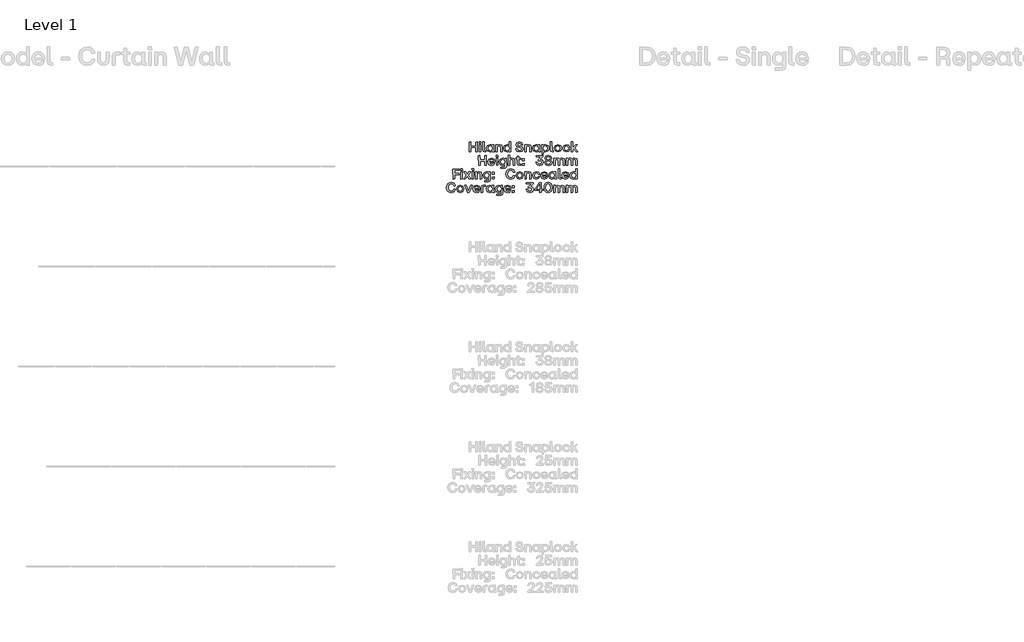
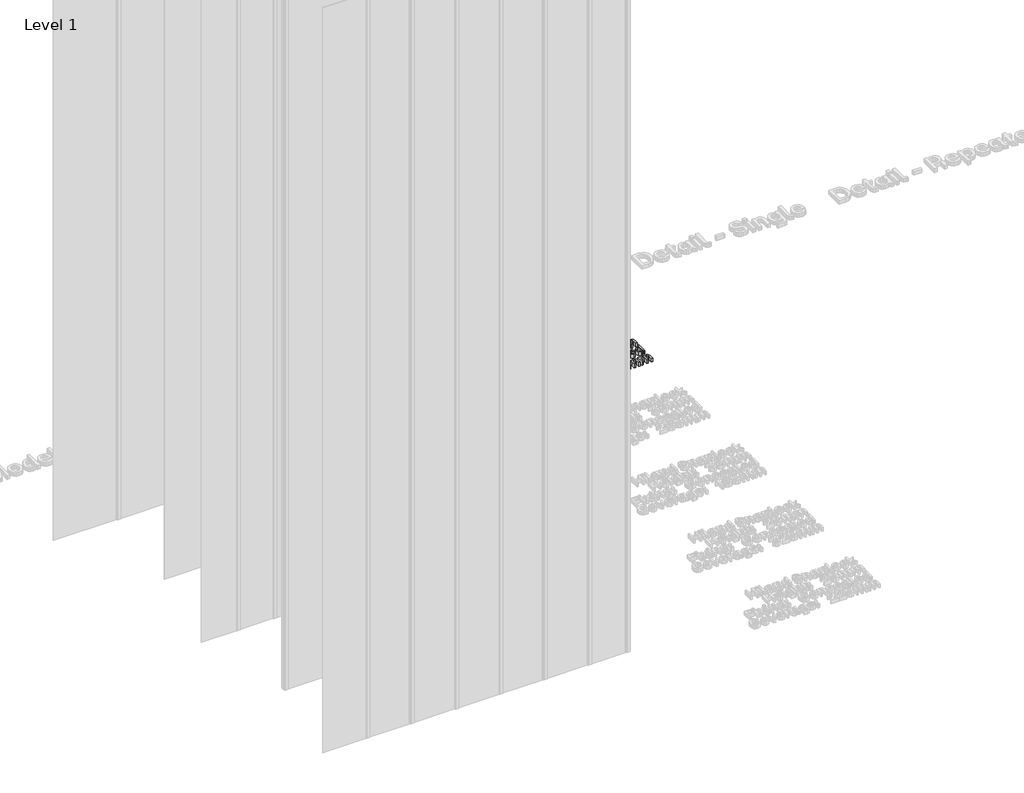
# One storey, part 20 of 64: 1 proxy.
"""IFC4 building model written with IfcOpenShell, lengths in millimetres."""

import ifcopenshell
import ifcopenshell.guid

model = None  # the IFC model being written
_history = None  # IfcOwnerHistory: only IFC2X3 demands one
_inside = {}  # id of a spatial element -> (the spatial element, [elements in it])
_under = {}  # id of a project, library or spatial element -> (it, [spatial elements below it])
_declared = {}  # id of a project -> (the project, [libraries it declares])
_typed = {}  # id of a type object -> (the type object, [elements of that type])
_made_of = {}  # id of a material, layer set ... -> (it, [elements and type objects made of it])


def new_model(schema):
    """Start an empty IFC model of exactly this schema.

    Asked for "IFC4X3", IfcOpenShell would pick the latest addendum, in which some entities
    have other attributes; the version numbers below select the first issue.
    IFC2X3 requires an IfcOwnerHistory on every rooted entity: one is made here for all.
    """
    global model, _history
    if schema == "IFC4X3":
        model = ifcopenshell.file(schema_version=(4, 3, 0, 0))
    else:
        model = ifcopenshell.file(schema=schema)
    _inside.clear()
    _under.clear()
    _declared.clear()
    _typed.clear()
    _made_of.clear()
    _history = None
    if model.schema == "IFC2X3":
        org = make("IfcOrganization", Name="unknown")
        user = make(
            "IfcPersonAndOrganization",
            ThePerson=make("IfcPerson", FamilyName="unknown"),
            TheOrganization=org,
        )
        app = make(
            "IfcApplication",
            ApplicationDeveloper=org,
            Version="unknown",
            ApplicationFullName="unknown",
            ApplicationIdentifier="unknown",
        )
        _history = make(
            "IfcOwnerHistory",
            OwningUser=user,
            OwningApplication=app,
            ChangeAction="ADDED",
            CreationDate=0,
        )
    return model


def make(cls, **values):
    """One entity of the class cls with the attributes given. An attribute that is None is left unset."""
    return model.create_entity(
        cls, **{name: value for name, value in values.items() if value is not None}
    )


def rooted(cls, **values):
    """An entity with a GlobalId (a new one), such as an element, a storey or a relation."""
    return make(cls, GlobalId=ifcopenshell.guid.new(), OwnerHistory=_history, **values)


def si_unit(unit_type, name, prefix=None):
    """IfcSIUnit, for example si_unit("LENGTHUNIT", "METRE", prefix="MILLI")."""
    return make("IfcSIUnit", UnitType=unit_type, Prefix=prefix, Name=name)


def assignment(units):
    """IfcUnitAssignment: the units of a project."""
    return None if units is None else make("IfcUnitAssignment", Units=units)


def point(xyz):
    """IfcCartesianPoint."""
    return None if xyz is None else make("IfcCartesianPoint", Coordinates=xyz)


def direction(xyz):
    """IfcDirection."""
    return None if xyz is None else make("IfcDirection", DirectionRatios=xyz)


def frame(location, z_axis=None, x_axis=None):
    """IfcAxis2Placement3D, a coordinate frame: its origin and axes. An axis left out is left unset."""
    return make(
        "IfcAxis2Placement3D",
        Location=point(location),
        Axis=direction(z_axis),
        RefDirection=direction(x_axis),
    )


def origin():
    """The frame at (0, 0, 0) with its axes left unset."""
    return frame((0.0, 0.0, 0.0))


def origin_with_axes():
    """The frame at (0, 0, 0) with the z axis (0, 0, 1) and the x axis (1, 0, 0) written out."""
    return frame((0.0, 0.0, 0.0), z_axis=(0.0, 0.0, 1.0), x_axis=(1.0, 0.0, 0.0))


def place(relative_to, where):
    """IfcLocalPlacement: puts the frame where relative to a parent placement (None: the world)."""
    return make(
        "IfcLocalPlacement", PlacementRelTo=relative_to, RelativePlacement=where
    )


def context(
    kind, dimensions, precision=None, world=None, true_north=None, identifier=None
):
    """IfcGeometricRepresentationContext, for example the 3D "Model" context."""
    return make(
        "IfcGeometricRepresentationContext",
        ContextIdentifier=identifier,
        ContextType=kind,
        CoordinateSpaceDimension=dimensions,
        Precision=precision,
        WorldCoordinateSystem=world,
        TrueNorth=true_north,
    )


def project(units=None, contexts=None):
    """IfcProject with its units and contexts."""
    return rooted(
        "IfcProject",
        Name="project",
        RepresentationContexts=contexts,
        UnitsInContext=assignment(units),
    )


def spatial(cls, under=None, at=None, **own):
    """A site, building, storey or space (cls), placed at a placement, below another one or the project."""
    s = rooted(cls, ObjectPlacement=at, **own)
    if under is not None:
        _under.setdefault(under.id(), (under, []))[1].append(s)
    return s


def polyline(points):
    """IfcPolyline through the points."""
    return make("IfcPolyline", Points=[point(p) for p in points])


def outline(outer, holes=None, kind="AREA"):
    """IfcArbitraryClosedProfileDef: a profile drawn as a closed curve; with holes, ...WithVoids."""
    if holes is None:
        return make("IfcArbitraryClosedProfileDef", ProfileType=kind, OuterCurve=outer)
    return make(
        "IfcArbitraryProfileDefWithVoids",
        ProfileType=kind,
        OuterCurve=outer,
        InnerCurves=holes,
    )


def extrude(swept, where, along, depth):
    """IfcExtrudedAreaSolid: the profile swept, set in the frame where, extruded along a direction by depth."""
    return make(
        "IfcExtrudedAreaSolid",
        SweptArea=swept,
        Position=where,
        ExtrudedDirection=direction(along),
        Depth=depth,
    )


def shape(context_of_items, identifier, shape_type, items):
    """IfcShapeRepresentation: the items that make up one representation, for example the "Body"."""
    return make(
        "IfcShapeRepresentation",
        ContextOfItems=context_of_items,
        RepresentationIdentifier=identifier,
        RepresentationType=shape_type,
        Items=items,
    )


def made_of(thing, what):
    """Note that an element or type object is made of a material, layer set ...; save() writes the relation."""
    if what is not None:
        _made_of.setdefault(what.id(), (what, []))[1].append(thing)
    return thing


def element(
    cls,
    number,
    at=None,
    inside=None,
    cuts=None,
    type_object=None,
    material=None,
    context=None,
    identifier="Body",
    shape_type=None,
    held_by="IfcProductDefinitionShape",
    body=None,
    shapes=None,
    **own,
):
    """One element of the class cls, such as IfcWall. Its Tag is "e" and its number.

    at: its placement. inside: the storey or other place that contains it. cuts: it is an
    opening in that element (IfcRelVoidsElement). A single representation is given by context,
    identifier, shape_type and body (its items); several are given by shapes. held_by: the class
    of the entity that holds the representations. save() writes the other relations.
    """
    e = rooted(cls, Tag="e%d" % number, ObjectPlacement=at, **own)
    if body is not None:
        shapes = [shape(context, identifier, shape_type, body)]
    if shapes is not None:
        e.Representation = make(held_by, Representations=shapes)
    if inside is not None:
        _inside.setdefault(inside.id(), (inside, []))[1].append(e)
    if cuts is not None:
        rooted(
            "IfcRelVoidsElement", RelatingBuildingElement=cuts, RelatedOpeningElement=e
        )
    if type_object is not None:
        _typed.setdefault(type_object.id(), (type_object, []))[1].append(e)
    return made_of(e, material)


def aggregate(whole, parts):
    """IfcRelAggregates: a whole, such as a stair, and the parts it consists of."""
    return rooted("IfcRelAggregates", RelatingObject=whole, RelatedObjects=parts)


def save(model, path):
    """Write the relations noted so far, then the file.

    IfcRelAggregates (storeys below a building ...), IfcRelContainedInSpatialStructure (elements
    in a storey), IfcRelDefinesByType, IfcRelAssociatesMaterial and IfcRelDeclares: one each for
    every whole, place, type object, material and project.
    """
    for whole, parts in _under.values():
        aggregate(whole, parts)
    for where, things in _inside.values():
        rooted(
            "IfcRelContainedInSpatialStructure",
            RelatedElements=things,
            RelatingStructure=where,
        )
    for kind, things in _typed.values():
        rooted("IfcRelDefinesByType", RelatedObjects=things, RelatingType=kind)
    for what, things in _made_of.values():
        rooted("IfcRelAssociatesMaterial", RelatedObjects=things, RelatingMaterial=what)
    for by, libraries in _declared.values():
        rooted("IfcRelDeclares", RelatingContext=by, RelatedDefinitions=libraries)
    model.write(path)


model = new_model("IFC4")

# Units and contexts
model_context = context("Model", 3, world=origin())
ifc_project = project(units=[si_unit("LENGTHUNIT", "METRE", prefix="MILLI")], contexts=[model_context])

# Site, building, storey
site = spatial("IfcSite", under=ifc_project)
building = spatial("IfcBuilding", under=site)
storey = spatial("IfcBuildingStorey", under=building, Name="Level 1", Elevation=0.0)

# Proxy
placement = place(None, origin())
element("IfcBuildingElementProxy", 1, Name="50mm", ObjectType="50mm", at=placement, inside=storey, context=model_context, shape_type="SweptSolid", body=[
    extrude(outline(polyline([(2488.8278866, -6933.5188866), (2488.1305548, -6911.5808277), (2464.2818068, -6911.5808277), (2464.2818068, -6932.8215548), (2456.7785164, -6933.5188866), (2456.0532913, -6884.2454206), (2463.542635, -6883.5201955), (2464.2818068, -6904.6075096), (2488.1305548, -6904.6075096), (2488.1305548, -6884.2454206), (2495.6198985, -6883.5201955), (2496.3172303, -6932.8215548), (2488.8278866, -6933.5188866)])), origin_with_axes(), (0.0, 0.0, 1.0), 20.0),
    extrude(outline(polyline([(2506.414595, -6933.5188866), (2505.6893699, -6897.8154977), (2512.8997809, -6897.1181659), (2513.5971127, -6932.8215548), (2506.414595, -6933.5188866)])), origin_with_axes(), (0.0, 0.0, 1.0), 20.0),
    extrude(outline(polyline([(2505.4801704, -6890.4516737), (2505.1315045, -6882.4044646), (2513.5273795, -6881.6652929), (2514.2665512, -6890.1030078), (2505.4801704, -6890.4516737)])), origin_with_axes(), (0.0, 0.0, 1.0), 20.0),
    extrude(outline(polyline([(2532.9968838, -6933.5188866), (2525.2983405, -6930.8690257), (2522.6484796, -6923.1565359), (2522.6484796, -6882.8228637), (2529.8588906, -6882.083692), (2530.5562224, -6927.2429003), (2537.2227146, -6927.2429003), (2537.9200464, -6932.8215548), (2532.9968838, -6933.5188866)])), origin_with_axes(), (0.0, 0.0, 1.0), 20.0),
    extrude(outline(polyline([(2558.0868825, -6933.9372857), (2546.3159214, -6928.8955767), (2541.9366776, -6915.3882594), (2546.3159214, -6901.7484491), (2558.0868825, -6896.6579269), (2564.7045614, -6898.2617901), (2569.6904839, -6902.6549805), (2570.0112565, -6897.8154977), (2577.1937742, -6897.1181659), (2577.9189993, -6927.2429003), (2581.8658973, -6927.2429003), (2582.5632291, -6932.8215548), (2576.5661755, -6933.5188866), (2571.9114857, -6932.2113895), (2570.3599224, -6928.288898), (2565.0044141, -6932.3334225), (2558.0868825, -6933.9372857)]), holes=[polyline([(2549.9978334, -6915.3882594), (2552.7522941, -6924.2792401), (2560.2765044, -6927.521833), (2567.6403283, -6924.2931867), (2570.2901892, -6915.3882594), (2567.6194084, -6906.392679), (2560.2765044, -6903.1152195), (2552.7522941, -6906.392679), (2549.9978334, -6915.3882594)])]), origin_with_axes(), (0.0, 0.0, 1.0), 20.0),
    extrude(outline(polyline([(2589.4249742, -6933.5188866), (2588.6997491, -6897.8154977), (2595.5614942, -6897.1181659), (2596.258826, -6902.6549805), (2601.4225681, -6898.1571903), (2608.0437337, -6896.6579269), (2617.6041528, -6900.8419178), (2620.916479, -6913.0870644), (2620.916479, -6932.8215548), (2613.6921214, -6933.5188866), (2612.9668963, -6913.0870644), (2611.0143672, -6905.7092939), (2604.8429806, -6903.3941522), (2598.6158075, -6905.7441604), (2596.6074919, -6913.0870644), (2596.6074919, -6932.8215548), (2589.4249742, -6933.5188866)])), origin_with_axes(), (0.0, 0.0, 1.0), 20.0),
    extrude(outline(polyline([(2643.7750158, -6933.9372857), (2632.0040548, -6928.8955767), (2627.624811, -6915.3882594), (2632.0040548, -6901.7484491), (2643.7750158, -6896.6579269), (2650.3926948, -6898.2617901), (2655.3786172, -6902.6549805), (2655.6993899, -6882.8228637), (2662.8819076, -6882.083692), (2663.6071326, -6932.8215548), (2656.7453876, -6933.5188866), (2656.0480558, -6928.0099653), (2650.6925474, -6932.3334225), (2643.7750158, -6933.9372857)]), holes=[polyline([(2635.6859668, -6915.3882594), (2638.4404275, -6924.2792401), (2645.9646377, -6927.521833), (2653.3284617, -6924.2931867), (2655.9783226, -6915.3882594), (2653.3075417, -6906.392679), (2645.9646377, -6903.1152195), (2638.4404275, -6906.392679), (2635.6859668, -6915.3882594)])]), origin_with_axes(), (0.0, 0.0, 1.0), 20.0),
    extrude(outline(polyline([(2707.7621831, -6933.9372857), (2694.1781594, -6929.823028), (2688.1950524, -6918.1078535), (2695.5588764, -6917.2989486), (2699.7219473, -6924.9417053), (2707.7621831, -6927.1034339), (2714.7145813, -6925.1160383), (2717.2040559, -6919.6001436), (2715.4816463, -6915.0186736), (2709.7147122, -6912.7383985), (2703.1179533, -6911.5808277), (2692.6370561, -6906.8180514), (2689.1434237, -6897.4668318), (2693.6202939, -6886.9022548), (2706.1164801, -6883.1017964), (2718.7102926, -6886.951068), (2724.3168404, -6897.8154977), (2716.9948564, -6898.610456), (2712.9712518, -6891.8672573), (2706.1164801, -6889.9635415), (2699.582481, -6891.706871), (2697.3300992, -6896.7973933), (2699.3384148, -6901.6299027), (2705.6283478, -6904.1612172), (2712.1832668, -6905.3048414), (2722.2806315, -6909.8932847), (2725.4046781, -6919.4606772), (2720.7116349, -6930.1019607), (2707.7621831, -6933.9372857)])), origin_with_axes(), (0.0, 0.0, 1.0), 20.0),
    extrude(outline(polyline([(2734.0236993, -6933.5188866), (2733.2984742, -6897.8154977), (2740.1602192, -6897.1181659), (2740.8575511, -6902.6549805), (2746.0212931, -6898.1571903), (2752.6424587, -6896.6579269), (2762.2028779, -6900.8419178), (2765.515204, -6913.0870644), (2765.515204, -6932.8215548), (2758.2908464, -6933.5188866), (2757.5656213, -6913.0870644), (2755.6130923, -6905.7092939), (2749.4417057, -6903.3941522), (2743.2145326, -6905.7441604), (2741.206217, -6913.0870644), (2741.206217, -6932.8215548), (2734.0236993, -6933.5188866)])), origin_with_axes(), (0.0, 0.0, 1.0), 20.0),
    extrude(outline(polyline([(2788.3737409, -6933.9372857), (2776.6027799, -6928.8955767), (2772.2235361, -6915.3882594), (2776.6027799, -6901.7484491), (2788.3737409, -6896.6579269), (2794.9914198, -6898.2617901), (2799.9773423, -6902.6549805), (2800.2981149, -6897.8154977), (2807.4806326, -6897.1181659), (2808.2058577, -6927.2429003), (2812.1527558, -6927.2429003), (2812.8500876, -6932.8215548), (2806.853034, -6933.5188866), (2802.1983441, -6932.2113895), (2800.6467808, -6928.288898), (2795.2912725, -6932.3334225), (2788.3737409, -6933.9372857)]), holes=[polyline([(2780.2846919, -6915.3882594), (2783.0391525, -6924.2792401), (2790.5633628, -6927.521833), (2797.9271868, -6924.2931867), (2800.5770477, -6915.3882594), (2797.9062668, -6906.392679), (2790.5633628, -6903.1152195), (2783.0391525, -6906.392679), (2780.2846919, -6915.3882594)])]), origin_with_axes(), (0.0, 0.0, 1.0), 20.0),
    extrude(outline(polyline([(2819.7118327, -6947.0750171), (2818.9866076, -6897.8154977), (2825.8483526, -6897.1181659), (2826.5456844, -6902.5852473), (2831.9011928, -6898.2617901), (2838.8187244, -6896.6579269), (2850.5896854, -6901.7135826), (2854.9689292, -6915.2487931), (2850.5896854, -6928.8607101), (2838.8187244, -6933.9372857), (2832.2010455, -6932.3334225), (2827.215123, -6927.9402321), (2826.8943503, -6946.3776853), (2819.7118327, -6947.0750171)]), holes=[polyline([(2826.6154176, -6915.2487931), (2829.2861985, -6924.2443735), (2836.6291025, -6927.521833), (2844.1533128, -6924.2443735), (2846.9077734, -6915.2487931), (2844.1533128, -6906.3578124), (2836.6291025, -6903.1152195), (2829.2652785, -6906.3368925), (2826.6154176, -6915.2487931)])]), origin_with_axes(), (0.0, 0.0, 1.0), 20.0),
    extrude(outline(polyline([(2872.1790784, -6933.5188866), (2864.4805352, -6930.8690257), (2861.8306743, -6923.1565359), (2861.8306743, -6882.8228637), (2869.0410852, -6882.083692), (2869.738417, -6927.2429003), (2876.4049092, -6927.2429003), (2877.102241, -6932.8215548), (2872.1790784, -6933.5188866)])), origin_with_axes(), (0.0, 0.0, 1.0), 20.0),
    extrude(outline(polyline([(2899.3192326, -6933.9372857), (2886.1605813, -6928.8118969), (2881.1188722, -6915.3882594), (2886.1745279, -6901.8530489), (2899.3192326, -6896.6579269), (2912.589457, -6901.8530489), (2917.6590593, -6915.3882594), (2912.589457, -6928.8118969), (2899.3192326, -6933.9372857)]), holes=[polyline([(2889.180028, -6915.3882594), (2891.8787021, -6924.2931867), (2899.3192326, -6927.521833), (2906.8573895, -6924.2792401), (2909.6118502, -6915.3882594), (2906.8713362, -6906.392679), (2899.3192326, -6903.1152195), (2891.8787021, -6906.392679), (2889.180028, -6915.3882594)])]), origin_with_axes(), (0.0, 0.0, 1.0), 20.0),
    extrude(outline(polyline([(2941.4101809, -6933.9372857), (2928.0771966, -6928.8955767), (2923.0703542, -6915.3882594), (2928.1469298, -6901.8530489), (2941.4101809, -6896.6579269), (2952.4838102, -6900.0957727), (2957.6998521, -6909.1820063), (2950.6846941, -6909.9490713), (2947.1143552, -6904.6493495), (2941.4101809, -6903.1152195), (2933.8511041, -6906.392679), (2931.13151, -6915.3882594), (2933.8650507, -6924.3141067), (2941.4101809, -6927.521833), (2947.2886881, -6926.0574362), (2950.266295, -6921.3155799), (2957.3511862, -6920.6461413), (2952.6930097, -6930.4994399), (2941.4101809, -6933.9372857)])), origin_with_axes(), (0.0, 0.0, 1.0), 20.0),
    extrude(outline(polyline([(2966.0957272, -6933.5188866), (2965.3705021, -6882.8228637), (2972.5809131, -6882.083692), (2973.2782449, -6912.8778649), (2988.5219183, -6897.4668318), (2996.4296611, -6897.1181659), (2983.7103288, -6912.0410667), (2997.7964315, -6932.6402485), (2990.1536748, -6933.5188866), (2978.4385003, -6917.2292154), (2973.2782449, -6922.2918444), (2973.2782449, -6932.8215548), (2966.0957272, -6933.5188866)])), origin_with_axes(), (0.0, 0.0, 1.0), 20.0),
    extrude(outline(polyline([(2534.3497075, -7001.3705811), (2533.6523757, -6979.4325222), (2509.8036276, -6979.4325222), (2509.8036276, -7000.6732493), (2502.3003373, -7001.3705811), (2501.5751122, -6952.0971151), (2509.0644559, -6951.37189), (2509.8036276, -6972.459204), (2533.6523757, -6972.459204), (2533.6523757, -6952.0971151), (2541.1417194, -6951.37189), (2541.8390512, -7000.6732493), (2534.3497075, -7001.3705811)])), origin_with_axes(), (0.0, 0.0, 1.0), 20.0),
    extrude(outline(polyline([(2567.4869153, -7001.7889802), (2554.0841978, -6996.7472711), (2549.0773554, -6983.2399539), (2554.0632779, -6969.586197), (2567.4869153, -6964.5096214), (2579.7669286, -6969.5164638), (2584.2647188, -6983.1702207), (2584.2647188, -6985.0809099), (2557.2082444, -6985.8200816), (2560.2765044, -6992.8631329), (2567.4869153, -6995.3735275), (2573.2747694, -6994.0974102), (2576.2732962, -6990.520098), (2583.3581874, -6989.9343393), (2578.7000109, -6998.6998002), (2567.4869153, -7001.7889802)]), holes=[polyline([(2557.2779776, -6980.0322275), (2576.4824957, -6980.0322275), (2573.8396081, -6973.3866554), (2567.4869153, -6970.966914), (2560.3950508, -6973.2681089), (2557.2779776, -6980.0322275)])]), origin_with_axes(), (0.0, 0.0, 1.0), 20.0),
    extrude(outline(polyline([(2591.1683037, -6958.3033682), (2590.8196378, -6950.2561591), (2599.2155129, -6949.5169873), (2599.9546846, -6957.9547023), (2591.1683037, -6958.3033682)])), origin_with_axes(), (0.0, 0.0, 1.0), 20.0),
    extrude(outline(polyline([(2592.1027284, -7001.3705811), (2591.3775033, -6965.6671922), (2598.5879142, -6964.9698603), (2599.2852461, -7000.6732493), (2592.1027284, -7001.3705811)])), origin_with_axes(), (0.0, 0.0, 1.0), 20.0),
    extrude(outline(polyline([(2613.7758012, -7014.9267115), (2613.0366294, -7009.348057), (2634.2773565, -7008.6507252), (2634.2773565, -6995.7919266), (2628.9706614, -7000.185117), (2622.3529825, -7001.7889802), (2610.5820215, -6996.7124045), (2606.2027777, -6983.1004875), (2610.5820215, -6969.565277), (2622.3529825, -6964.5096214), (2629.2705141, -6966.1134845), (2634.3470897, -6970.4369418), (2634.6260224, -6965.6671922), (2641.4598742, -6964.9698603), (2642.1850993, -7004.9269733), (2639.6049716, -7012.3675038), (2632.1853611, -7014.9267115), (2613.7758012, -7014.9267115)]), holes=[polyline([(2614.2639334, -6983.1004875), (2617.0183941, -6992.0960679), (2624.5426044, -6995.3735275), (2631.8855084, -6992.0960679), (2634.5562892, -6983.1004875), (2631.9064284, -6974.1885869), (2624.5426044, -6970.966914), (2617.0183941, -6974.2095069), (2614.2639334, -6983.1004875)])]), origin_with_axes(), (0.0, 0.0, 1.0), 20.0),
    extrude(outline(polyline([(2651.9059048, -7001.3705811), (2651.1806797, -6950.6745581), (2658.3910907, -6949.9353864), (2659.0884225, -6970.2277422), (2664.1754581, -6965.9391516), (2670.5246642, -6964.5096214), (2680.0850834, -6968.6936122), (2683.3974095, -6980.9387589), (2683.3974095, -7000.6732493), (2676.1730519, -7001.3705811), (2675.4478269, -6980.9387589), (2673.4952978, -6973.5609883), (2667.3239112, -6971.2458467), (2661.0967381, -6973.5958549), (2659.0884225, -6980.9387589), (2659.0884225, -7000.6732493), (2651.9059048, -7001.3705811)])), origin_with_axes(), (0.0, 0.0, 1.0), 20.0),
    extrude(outline(polyline([(2706.6743455, -7001.3705811), (2698.9618556, -6998.7207202), (2696.3119947, -6991.0082303), (2696.3119947, -6971.2458467), (2690.1057416, -6971.2458467), (2689.3805165, -6965.6671922), (2696.3119947, -6964.9698603), (2696.3119947, -6954.9561755), (2703.5363523, -6954.2309504), (2704.2336842, -6964.9698603), (2713.020065, -6964.9698603), (2713.7452901, -6970.506675), (2704.2336842, -6971.2458467), (2704.2336842, -6995.0945947), (2713.020065, -6995.0945947), (2713.7452901, -7000.6732493), (2706.6743455, -7001.3705811)])), origin_with_axes(), (0.0, 0.0, 1.0), 20.0),
    extrude(outline(polyline([(2721.150954, -6977.7310326), (2720.4536222, -6968.1078535), (2729.9373348, -6967.3686818), (2730.6625599, -6977.0337007), (2721.150954, -6977.7310326)])), origin_with_axes(), (0.0, 0.0, 1.0), 20.0),
    extrude(outline(polyline([(2720.8022881, -7001.0219152), (2720.4536222, -6991.747402), (2729.9373348, -6991.0082303), (2730.6625599, -7000.6732493), (2720.8022881, -7001.0219152)])), origin_with_axes(), (0.0, 0.0, 1.0), 20.0),
    extrude(outline(polyline([(2808.2755909, -7001.7889802), (2794.8798467, -6997.7235357), (2789.0571261, -6985.959548), (2796.42095, -6985.1506431), (2800.584021, -6992.7236666), (2808.2755909, -6994.9551284), (2815.4162687, -6992.5493336), (2818.0661296, -6985.959548), (2815.2977223, -6979.0908296), (2806.6298878, -6976.8942344), (2801.1906997, -6976.8942344), (2800.4933678, -6972.8078699), (2813.8542454, -6958.6520341), (2791.1491215, -6958.3731014), (2790.4238964, -6952.0971151), (2824.1329164, -6951.37189), (2824.8302482, -6956.1834795), (2811.9296096, -6970.0882759), (2822.6545729, -6975.2136647), (2826.2667517, -6985.959548), (2821.4202956, -6997.5352561), (2808.2755909, -7001.7889802)])), origin_with_axes(), (0.0, 0.0, 1.0), 20.0),
    extrude(outline(polyline([(2865.4289064, -6998.1768014), (2851.3846437, -7001.7889802), (2837.3124877, -6998.1768014), (2832.3753784, -6987.8702371), (2834.8509064, -6980.1368273), (2841.5104252, -6975.8063967), (2835.9457173, -6971.1691402), (2834.0908147, -6964.370155), (2838.7768845, -6954.5796163), (2851.3776704, -6950.9534909), (2863.9645096, -6954.5796163), (2868.6366328, -6964.370155), (2866.7817301, -6971.1691402), (2861.2170223, -6975.527464), (2867.8765411, -6980.1368273), (2870.352069, -6987.8702371), (2865.4289064, -6998.1768014)]), holes=[polyline([(2840.5760005, -6986.9358125), (2843.2781613, -6992.9502994), (2851.3846437, -6994.9551284), (2859.4597461, -6992.9502994), (2862.1514469, -6986.9358125), (2859.4597461, -6981.3606446), (2851.3846437, -6979.5022554), (2843.2781613, -6981.3606446), (2840.5760005, -6986.9358125)]), polyline([(2842.3193301, -6965.4579926), (2844.6553917, -6970.8065276), (2851.3846437, -6972.6684036), (2858.1138957, -6970.8065276), (2860.4499573, -6965.4579926), (2858.1138957, -6959.788685), (2851.3846437, -6957.8152359), (2844.6553917, -6959.788685), (2842.3193301, -6965.4579926)])]), origin_with_axes(), (0.0, 0.0, 1.0), 20.0),
    extrude(outline(polyline([(2878.6224244, -7001.3705811), (2877.8971993, -6965.6671922), (2884.7589443, -6964.9698603), (2885.4562761, -6970.506675), (2890.4421986, -6966.0088848), (2896.8925179, -6964.5096214), (2903.1789642, -6966.0088848), (2907.394335, -6970.506675), (2913.2170557, -6966.0646713), (2920.4623332, -6964.5096214), (2929.7368464, -6968.6796656), (2932.9445727, -6980.9387589), (2932.9445727, -7000.6732493), (2925.7341617, -7001.3705811), (2925.0368299, -6980.9387589), (2923.154034, -6973.5609883), (2917.1848737, -6971.2458467), (2911.2784732, -6973.5958549), (2909.3747574, -6980.9387589), (2909.3747574, -7000.6732493), (2902.1643464, -7001.3705811), (2901.4670146, -6980.9387589), (2899.5981653, -6973.5609883), (2893.6847915, -6971.2458467), (2887.7086579, -6973.5958549), (2885.804942, -6980.9387589), (2885.804942, -7000.6732493), (2878.6224244, -7001.3705811)])), origin_with_axes(), (0.0, 0.0, 1.0), 20.0),
    extrude(outline(polyline([(2941.9959397, -7001.3705811), (2941.2707146, -6965.6671922), (2948.1324596, -6964.9698603), (2948.8297914, -6970.506675), (2953.8157139, -6966.0088848), (2960.2660332, -6964.5096214), (2966.5524795, -6966.0088848), (2970.7678503, -6970.506675), (2976.590571, -6966.0646713), (2983.8358485, -6964.5096214), (2993.1103617, -6968.6796656), (2996.318088, -6980.9387589), (2996.318088, -7000.6732493), (2989.1076771, -7001.3705811), (2988.4103452, -6980.9387589), (2986.5275493, -6973.5609883), (2980.558389, -6971.2458467), (2974.6519885, -6973.5958549), (2972.7482727, -6980.9387589), (2972.7482727, -7000.6732493), (2965.5378617, -7001.3705811), (2964.8405299, -6980.9387589), (2962.9716806, -6973.5609883), (2957.0583069, -6971.2458467), (2951.0821732, -6973.5958549), (2949.1784574, -6980.9387589), (2949.1784574, -7000.6732493), (2941.9959397, -7001.3705811)])), origin_with_axes(), (0.0, 0.0, 1.0), 20.0),
    extrude(outline(polyline([(2374.6607219, -7069.2222755), (2373.9354969, -7019.9488095), (2405.5246281, -7019.2235844), (2406.2219599, -7025.527464), (2382.1640123, -7026.2247958), (2382.1640123, -7041.287163), (2404.0881245, -7041.287163), (2404.7854563, -7047.5631494), (2382.1640123, -7048.3023211), (2382.1640123, -7068.5249437), (2374.6607219, -7069.2222755)])), origin_with_axes(), (0.0, 0.0, 1.0), 20.0),
    extrude(outline(polyline([(2414.4783686, -7069.2222755), (2413.7531435, -7033.5188866), (2420.9635544, -7032.8215548), (2421.6608863, -7068.5249437), (2414.4783686, -7069.2222755)])), origin_with_axes(), (0.0, 0.0, 1.0), 20.0),
    extrude(outline(polyline([(2413.5439439, -7026.1550627), (2413.195278, -7018.1078535), (2421.5911531, -7017.3686818), (2422.3303248, -7025.8063967), (2413.5439439, -7026.1550627)])), origin_with_axes(), (0.0, 0.0, 1.0), 20.0),
    extrude(outline(polyline([(2428.5784179, -7069.2222755), (2441.3395901, -7050.7429824), (2429.1362833, -7033.658353), (2437.1277059, -7032.8215548), (2445.9140868, -7044.815662), (2454.1426022, -7033.2399539), (2462.2595445, -7032.8215548), (2450.6559431, -7049.9340775), (2463.696048, -7068.3436374), (2455.7046254, -7069.2222755), (2445.9838199, -7055.7916648), (2436.7093068, -7068.8038764), (2428.5784179, -7069.2222755)])), origin_with_axes(), (0.0, 0.0, 1.0), 20.0),
    extrude(outline(polyline([(2470.7112061, -7069.2222755), (2469.985981, -7033.5188866), (2477.196392, -7032.8215548), (2477.8937238, -7068.5249437), (2470.7112061, -7069.2222755)])), origin_with_axes(), (0.0, 0.0, 1.0), 20.0),
    extrude(outline(polyline([(2469.7767815, -7026.1550627), (2469.4281156, -7018.1078535), (2477.8239906, -7017.3686818), (2478.5631623, -7025.8063967), (2469.7767815, -7026.1550627)])), origin_with_axes(), (0.0, 0.0, 1.0), 20.0),
    extrude(outline(polyline([(2487.6703158, -7069.2222755), (2486.9450907, -7033.5188866), (2493.8068358, -7032.8215548), (2494.5041676, -7038.3583694), (2499.6679097, -7033.8605792), (2506.2890753, -7032.3613158), (2515.8494944, -7036.5453067), (2519.1618206, -7048.7904534), (2519.1618206, -7068.5249437), (2511.937463, -7069.2222755), (2511.2122379, -7048.7904534), (2509.2597088, -7041.4126828), (2503.0883222, -7039.0975411), (2496.8611491, -7041.4475493), (2494.8528335, -7048.7904534), (2494.8528335, -7068.5249437), (2487.6703158, -7069.2222755)])), origin_with_axes(), (0.0, 0.0, 1.0), 20.0),
    extrude(outline(polyline([(2533.4431761, -7082.778406), (2532.7040044, -7077.1997515), (2553.9447315, -7076.5024197), (2553.9447315, -7063.643621), (2548.6380364, -7068.0368114), (2542.0203574, -7069.6406746), (2530.2493964, -7064.564099), (2525.8701526, -7050.952182), (2530.2493964, -7037.4169715), (2542.0203574, -7032.3613158), (2548.9378891, -7033.965179), (2554.0144647, -7038.2886362), (2554.2933974, -7033.5188866), (2561.1272492, -7032.8215548), (2561.8524743, -7072.7786678), (2559.2723465, -7080.2191982), (2551.852736, -7082.778406), (2533.4431761, -7082.778406)]), holes=[polyline([(2533.9313084, -7050.952182), (2536.6857691, -7059.9477624), (2544.2099793, -7063.2252219), (2551.5528834, -7059.9477624), (2554.2236642, -7050.952182), (2551.5738033, -7042.0402814), (2544.2099793, -7038.8186084), (2536.6857691, -7042.0612013), (2533.9313084, -7050.952182)])]), origin_with_axes(), (0.0, 0.0, 1.0), 20.0),
    extrude(outline(polyline([(2571.1967206, -7045.582727), (2570.4993888, -7035.959548), (2579.9831014, -7035.2203762), (2580.7083265, -7044.8853952), (2571.1967206, -7045.582727)])), origin_with_axes(), (0.0, 0.0, 1.0), 20.0),
    extrude(outline(polyline([(2570.8480547, -7068.8736096), (2570.4993888, -7059.5990965), (2579.9831014, -7058.8599248), (2580.7083265, -7068.5249437), (2570.8480547, -7068.8736096)])), origin_with_axes(), (0.0, 0.0, 1.0), 20.0),
    extrude(outline(polyline([(2662.9516407, -7069.6406746), (2652.9449292, -7067.9269817), (2645.2394126, -7062.7859029), (2640.3232234, -7054.7160305), (2638.6844936, -7044.2159567), (2640.33717, -7033.8919591), (2645.2951992, -7025.7924501), (2653.0146624, -7020.5520015), (2662.9516407, -7018.8051853), (2677.1283965, -7023.4215219), (2684.0807947, -7035.7085085), (2676.7588107, -7036.5174134), (2671.5950686, -7028.3272513), (2662.9516407, -7025.8063967), (2651.2922528, -7030.743506), (2647.0524754, -7044.2159567), (2651.2713328, -7057.7999804), (2662.9516407, -7062.6673565), (2671.7659149, -7060.1813685), (2676.4519847, -7052.7234048), (2683.8715952, -7052.0679129), (2677.4073293, -7065.0382846), (2662.9516407, -7069.6406746)])), origin_with_axes(), (0.0, 0.0, 1.0), 20.0),
    extrude(outline(polyline([(2708.306102, -7069.6406746), (2695.1474506, -7064.5152858), (2690.1057416, -7051.0916483), (2695.1613973, -7037.5564378), (2708.306102, -7032.3613158), (2721.5763264, -7037.5564378), (2726.6459287, -7051.0916483), (2721.5763264, -7064.5152858), (2708.306102, -7069.6406746)]), holes=[polyline([(2698.1668974, -7051.0916483), (2700.8655715, -7059.9965756), (2708.306102, -7063.2252219), (2715.8442589, -7059.982629), (2718.5987195, -7051.0916483), (2715.8582055, -7042.0960679), (2708.306102, -7038.8186084), (2700.8655715, -7042.0960679), (2698.1668974, -7051.0916483)])]), origin_with_axes(), (0.0, 0.0, 1.0), 20.0),
    extrude(outline(polyline([(2734.916284, -7069.2222755), (2734.1910589, -7033.5188866), (2741.052804, -7032.8215548), (2741.7501358, -7038.3583694), (2746.9138779, -7033.8605792), (2753.5350435, -7032.3613158), (2763.0954626, -7036.5453067), (2766.4077887, -7048.7904534), (2766.4077887, -7068.5249437), (2759.1834311, -7069.2222755), (2758.4582061, -7048.7904534), (2756.505677, -7041.4126828), (2750.3342904, -7039.0975411), (2744.1071173, -7041.4475493), (2742.0988017, -7048.7904534), (2742.0988017, -7068.5249437), (2734.916284, -7069.2222755)])), origin_with_axes(), (0.0, 0.0, 1.0), 20.0),
    extrude(outline(polyline([(2791.4559475, -7069.6406746), (2778.1229632, -7064.5989656), (2773.1161208, -7051.0916483), (2778.1926964, -7037.5564378), (2791.4559475, -7032.3613158), (2802.5295767, -7035.7991616), (2807.7456187, -7044.8853952), (2800.7304607, -7045.6524602), (2797.1601218, -7040.3527384), (2791.4559475, -7038.8186084), (2783.8968707, -7042.0960679), (2781.1772766, -7051.0916483), (2783.9108173, -7060.0174956), (2791.4559475, -7063.2252219), (2797.3344547, -7061.7608251), (2800.3120616, -7057.0189688), (2807.3969528, -7056.3495302), (2802.7387763, -7066.2028288), (2791.4559475, -7069.6406746)])), origin_with_axes(), (0.0, 0.0, 1.0), 20.0),
    extrude(outline(polyline([(2831.6919932, -7069.6406746), (2818.2892758, -7064.5989656), (2813.2824333, -7051.0916483), (2818.2683558, -7037.4378914), (2831.6919932, -7032.3613158), (2843.9720065, -7037.3681582), (2848.4697967, -7051.0219152), (2848.4697967, -7052.9326043), (2821.4133223, -7053.6717761), (2824.4815823, -7060.7148274), (2831.6919932, -7063.2252219), (2837.4798473, -7061.9491047), (2840.4783741, -7058.3717925), (2847.5632653, -7057.7860338), (2842.9050888, -7066.5514947), (2831.6919932, -7069.6406746)]), holes=[polyline([(2821.4830555, -7047.883922), (2840.6875736, -7047.883922), (2838.0446861, -7041.2383498), (2831.6919932, -7038.8186084), (2824.6001287, -7041.1198034), (2821.4830555, -7047.883922)])]), origin_with_axes(), (0.0, 0.0, 1.0), 20.0),
    extrude(outline(polyline([(2869.5989507, -7069.6406746), (2857.8279896, -7064.5989656), (2853.4487458, -7051.0916483), (2857.8279896, -7037.4518381), (2869.5989507, -7032.3613158), (2876.2166296, -7033.965179), (2881.2025521, -7038.3583694), (2881.5233247, -7033.5188866), (2888.7058424, -7032.8215548), (2889.4310675, -7062.9462892), (2893.3779655, -7062.9462892), (2894.0752974, -7068.5249437), (2888.0782438, -7069.2222755), (2883.4235539, -7067.9147784), (2881.8719906, -7063.9922869), (2876.5164823, -7068.0368114), (2869.5989507, -7069.6406746)]), holes=[polyline([(2861.5099016, -7051.0916483), (2864.2643623, -7059.982629), (2871.7885726, -7063.2252219), (2879.1523965, -7059.9965756), (2881.8022574, -7051.0916483), (2879.1314766, -7042.0960679), (2871.7885726, -7038.8186084), (2864.2643623, -7042.0960679), (2861.5099016, -7051.0916483)])]), origin_with_axes(), (0.0, 0.0, 1.0), 20.0),
    extrude(outline(polyline([(2910.5602215, -7069.2222755), (2902.8616782, -7066.5724146), (2900.2118173, -7058.8599248), (2900.2118173, -7018.5262526), (2907.4222283, -7017.7870809), (2908.1195601, -7062.9462892), (2914.7860523, -7062.9462892), (2915.4833841, -7068.5249437), (2910.5602215, -7069.2222755)])), origin_with_axes(), (0.0, 0.0, 1.0), 20.0),
    extrude(outline(polyline([(2937.9095752, -7069.6406746), (2924.5068578, -7064.5989656), (2919.5000153, -7051.0916483), (2924.4859378, -7037.4378914), (2937.9095752, -7032.3613158), (2950.1895885, -7037.3681582), (2954.6873787, -7051.0219152), (2954.6873787, -7052.9326043), (2927.6309043, -7053.6717761), (2930.6991643, -7060.7148274), (2937.9095752, -7063.2252219), (2943.6974293, -7061.9491047), (2946.6959561, -7058.3717925), (2953.7808473, -7057.7860338), (2949.1226708, -7066.5514947), (2937.9095752, -7069.6406746)]), holes=[polyline([(2927.7006375, -7047.883922), (2946.9051556, -7047.883922), (2944.2622681, -7041.2383498), (2937.9095752, -7038.8186084), (2930.8177107, -7041.1198034), (2927.7006375, -7047.883922)])]), origin_with_axes(), (0.0, 0.0, 1.0), 20.0),
    extrude(outline(polyline([(2975.8165327, -7069.6406746), (2964.0455716, -7064.5989656), (2959.6663278, -7051.0916483), (2964.0455716, -7037.4518381), (2975.8165327, -7032.3613158), (2982.4342116, -7033.965179), (2987.4201341, -7038.3583694), (2987.7409067, -7018.5262526), (2994.9234244, -7017.7870809), (2995.6486495, -7068.5249437), (2988.7869044, -7069.2222755), (2988.0895726, -7063.7133542), (2982.7340643, -7068.0368114), (2975.8165327, -7069.6406746)]), holes=[polyline([(2967.7274836, -7051.0916483), (2970.4819443, -7059.982629), (2978.0061546, -7063.2252219), (2985.3699785, -7059.9965756), (2988.0198394, -7051.0916483), (2985.3490586, -7042.0960679), (2978.0061546, -7038.8186084), (2970.4819443, -7042.0960679), (2967.7274836, -7051.0916483)])]), origin_with_axes(), (0.0, 0.0, 1.0), 20.0),
    extrude(outline(polyline([(2365.7209281, -7137.4923691), (2355.7142165, -7135.7786761), (2348.0087, -7130.6375973), (2343.0925107, -7122.5677249), (2341.4537809, -7112.0676511), (2343.1064573, -7101.7436536), (2348.0644865, -7093.6441446), (2355.7839497, -7088.403696), (2365.7209281, -7086.6568798), (2379.8976839, -7091.2732164), (2386.8500821, -7103.560203), (2379.528098, -7104.3691079), (2374.3643559, -7096.1789457), (2365.7209281, -7093.6580912), (2354.0615401, -7098.5952004), (2349.8217627, -7112.0676511), (2354.0406202, -7125.6516749), (2365.7209281, -7130.5190509), (2374.5352022, -7128.033063), (2379.221272, -7120.5750992), (2386.6408825, -7119.9196073), (2380.1766166, -7132.8899791), (2365.7209281, -7137.4923691)])), origin_with_axes(), (0.0, 0.0, 1.0), 20.0),
    extrude(outline(polyline([(2411.0753893, -7137.4923691), (2397.916738, -7132.3669802), (2392.8750289, -7118.9433428), (2397.9306846, -7105.4081323), (2411.0753893, -7100.2130103), (2424.3456137, -7105.4081323), (2429.415216, -7118.9433428), (2424.3456137, -7132.3669802), (2411.0753893, -7137.4923691)]), holes=[polyline([(2400.9361847, -7118.9433428), (2403.6348588, -7127.8482701), (2411.0753893, -7131.0769164), (2418.6135462, -7127.8343234), (2421.3680069, -7118.9433428), (2418.6274929, -7109.9477624), (2411.0753893, -7106.6703029), (2403.6348588, -7109.9477624), (2400.9361847, -7118.9433428)])]), origin_with_axes(), (0.0, 0.0, 1.0), 20.0),
    extrude(outline(polyline([(2447.5179499, -7137.07397), (2433.1250213, -7101.5100474), (2440.3772722, -7100.6732493), (2451.8135139, -7130.5887841), (2462.6500503, -7101.2311147), (2470.0138743, -7100.6732493), (2456.9040362, -7136.5161045), (2447.5179499, -7137.07397)])), origin_with_axes(), (0.0, 0.0, 1.0), 20.0),
    extrude(outline(polyline([(2492.5097986, -7137.4923691), (2479.1070811, -7132.45066), (2474.1002387, -7118.9433428), (2479.0861612, -7105.2895859), (2492.5097986, -7100.2130103), (2504.7898119, -7105.2198527), (2509.2876021, -7118.8736096), (2509.2876021, -7120.7842988), (2482.2311277, -7121.5234705), (2485.2993877, -7128.5665218), (2492.5097986, -7131.0769164), (2498.2976527, -7129.8007992), (2501.2961795, -7126.2234869), (2508.3810707, -7125.6377282), (2503.7228942, -7134.4031891), (2492.5097986, -7137.4923691)]), holes=[polyline([(2482.3008608, -7115.7356165), (2501.505379, -7115.7356165), (2498.8624914, -7109.0900443), (2492.5097986, -7106.6703029), (2485.4179341, -7108.9714978), (2482.3008608, -7115.7356165)])]), origin_with_axes(), (0.0, 0.0, 1.0), 20.0),
    extrude(outline(polyline([(2516.7490525, -7137.07397), (2516.0517207, -7110.9937601), (2518.7015816, -7103.3021902), (2526.4001248, -7100.6732493), (2536.553276, -7100.6732493), (2537.2506078, -7106.6703029), (2523.9594635, -7107.3676347), (2523.9594635, -7136.3766382), (2516.7490525, -7137.07397)])), origin_with_axes(), (0.0, 0.0, 1.0), 20.0),
    extrude(outline(polyline([(2558.0868825, -7137.4923691), (2546.3159214, -7132.45066), (2541.9366776, -7118.9433428), (2546.3159214, -7105.3035325), (2558.0868825, -7100.2130103), (2564.7045614, -7101.8168734), (2569.6904839, -7106.2100639), (2570.0112565, -7101.3705811), (2577.1937742, -7100.6732493), (2577.9189993, -7130.7979836), (2581.8658973, -7130.7979836), (2582.5632291, -7136.3766382), (2576.5661755, -7137.07397), (2571.9114857, -7135.7664728), (2570.3599224, -7131.8439814), (2565.0044141, -7135.8885059), (2558.0868825, -7137.4923691)]), holes=[polyline([(2549.9978334, -7118.9433428), (2552.7522941, -7127.8343234), (2560.2765044, -7131.0769164), (2567.6403283, -7127.8482701), (2570.2901892, -7118.9433428), (2567.6194084, -7109.9477624), (2560.2765044, -7106.6703029), (2552.7522941, -7109.9477624), (2549.9978334, -7118.9433428)])]), origin_with_axes(), (0.0, 0.0, 1.0), 20.0),
    extrude(outline(polyline([(2594.1389373, -7150.6301005), (2593.3997655, -7145.0514459), (2614.6404926, -7144.3541141), (2614.6404926, -7131.4953155), (2609.3337975, -7135.8885059), (2602.7161186, -7137.4923691), (2590.9451576, -7132.4157935), (2586.5659138, -7118.8038764), (2590.9451576, -7105.2686659), (2602.7161186, -7100.2130103), (2609.6336502, -7101.8168734), (2614.7102258, -7106.1403307), (2614.9891585, -7101.3705811), (2621.8230103, -7100.6732493), (2622.5482354, -7140.6303622), (2619.9681077, -7148.0708927), (2612.5484972, -7150.6301005), (2594.1389373, -7150.6301005)]), holes=[polyline([(2594.6270695, -7118.8038764), (2597.3815302, -7127.7994568), (2604.9057405, -7131.0769164), (2612.2486445, -7127.7994568), (2614.9194253, -7118.8038764), (2612.2695645, -7109.8919758), (2604.9057405, -7106.6703029), (2597.3815302, -7109.9128958), (2594.6270695, -7118.8038764)])]), origin_with_axes(), (0.0, 0.0, 1.0), 20.0),
    extrude(outline(polyline([(2647.8195404, -7137.4923691), (2634.4168229, -7132.45066), (2629.4099805, -7118.9433428), (2634.3959029, -7105.2895859), (2647.8195404, -7100.2130103), (2660.0995536, -7105.2198527), (2664.5973438, -7118.8736096), (2664.5973438, -7120.7842988), (2637.5408694, -7121.5234705), (2640.6091294, -7128.5665218), (2647.8195404, -7131.0769164), (2653.6073944, -7129.8007992), (2656.6059212, -7126.2234869), (2663.6908125, -7125.6377282), (2659.0326359, -7134.4031891), (2647.8195404, -7137.4923691)]), holes=[polyline([(2637.6106026, -7115.7356165), (2656.8151208, -7115.7356165), (2654.1722332, -7109.0900443), (2647.8195404, -7106.6703029), (2640.7276758, -7108.9714978), (2637.6106026, -7115.7356165)])]), origin_with_axes(), (0.0, 0.0, 1.0), 20.0),
    extrude(outline(polyline([(2672.0587942, -7113.4344215), (2671.3614624, -7103.8112424), (2680.8451751, -7103.0720707), (2681.5704002, -7112.7370896), (2672.0587942, -7113.4344215)])), origin_with_axes(), (0.0, 0.0, 1.0), 20.0),
    extrude(outline(polyline([(2671.7101283, -7136.7253041), (2671.3614624, -7127.4507909), (2680.8451751, -7126.7116192), (2681.5704002, -7136.3766382), (2671.7101283, -7136.7253041)])), origin_with_axes(), (0.0, 0.0, 1.0), 20.0),
    extrude(outline(polyline([(2759.1834311, -7137.4923691), (2745.787687, -7133.4269246), (2739.9649663, -7121.6629369), (2747.3287903, -7120.854032), (2751.4918612, -7128.4270555), (2759.1834311, -7130.6585173), (2766.3241089, -7128.2527225), (2768.9739698, -7121.6629369), (2766.2055625, -7114.7942185), (2757.5377281, -7112.5976233), (2752.0985399, -7112.5976233), (2751.4012081, -7108.5112589), (2764.7620857, -7094.355423), (2742.0569618, -7094.0764903), (2741.3317367, -7087.800504), (2775.0407566, -7087.0752789), (2775.7380884, -7091.8868684), (2762.8374499, -7105.7916648), (2773.5624132, -7110.9170536), (2777.174592, -7121.6629369), (2772.3281359, -7133.238645), (2759.1834311, -7137.4923691)])), origin_with_axes(), (0.0, 0.0, 1.0), 20.0),
    extrude(outline(polyline([(2809.6423613, -7137.07397), (2808.9171362, -7126.641886), (2783.2832187, -7126.641886), (2782.5579936, -7122.5694682), (2806.3370085, -7087.5215712), (2816.4064799, -7087.0752789), (2817.1456516, -7119.6406746), (2824.3560625, -7119.6406746), (2825.0533944, -7125.9445542), (2817.1456516, -7126.641886), (2817.1456516, -7136.3766382), (2809.6423613, -7137.07397)]), holes=[polyline([(2792.9761309, -7119.5012082), (2809.1960689, -7119.6406746), (2809.1960689, -7095.2340611), (2792.9761309, -7119.5012082)])]), origin_with_axes(), (0.0, 0.0, 1.0), 20.0),
    extrude(outline(polyline([(2850.1294464, -7137.4923691), (2841.2123158, -7135.8919926), (2834.8230131, -7131.090863), (2830.9789714, -7123.134307), (2829.6976242, -7112.0676511), (2830.9789714, -7101.0027385), (2834.8230131, -7093.0514125), (2841.2123158, -7088.255513), (2850.1294464, -7086.6568798), (2858.9907904, -7088.255513), (2865.3521999, -7093.0514125), (2869.1857816, -7101.0027385), (2870.4636421, -7112.0676511), (2869.1857816, -7123.134307), (2865.3521999, -7131.090863), (2858.9907904, -7135.8919926), (2850.1294464, -7137.4923691)]), holes=[polyline([(2840.9107198, -7097.9815485), (2838.065606, -7112.0676511), (2840.9107198, -7126.1746737), (2850.1294464, -7130.5190509), (2859.2644932, -7126.1258605), (2862.1235536, -7112.0746244), (2859.2644932, -7098.037335), (2850.1294464, -7093.6580912), (2840.9107198, -7097.9815485)])]), origin_with_axes(), (0.0, 0.0, 1.0), 20.0),
    extrude(outline(polyline([(2878.6224244, -7137.07397), (2877.8971993, -7101.3705811), (2884.7589443, -7100.6732493), (2885.4562761, -7106.2100639), (2890.4421986, -7101.7122737), (2896.8925179, -7100.2130103), (2903.1789642, -7101.7122737), (2907.394335, -7106.2100639), (2913.2170557, -7101.7680602), (2920.4623332, -7100.2130103), (2929.7368464, -7104.3830545), (2932.9445727, -7116.6421478), (2932.9445727, -7136.3766382), (2925.7341617, -7137.07397), (2925.0368299, -7116.6421478), (2923.154034, -7109.2643772), (2917.1848737, -7106.9492356), (2911.2784732, -7109.2992438), (2909.3747574, -7116.6421478), (2909.3747574, -7136.3766382), (2902.1643464, -7137.07397), (2901.4670146, -7116.6421478), (2899.5981653, -7109.2643772), (2893.6847915, -7106.9492356), (2887.7086579, -7109.2992438), (2885.804942, -7116.6421478), (2885.804942, -7136.3766382), (2878.6224244, -7137.07397)])), origin_with_axes(), (0.0, 0.0, 1.0), 20.0),
    extrude(outline(polyline([(2941.9959397, -7137.07397), (2941.2707146, -7101.3705811), (2948.1324596, -7100.6732493), (2948.8297914, -7106.2100639), (2953.8157139, -7101.7122737), (2960.2660332, -7100.2130103), (2966.5524795, -7101.7122737), (2970.7678503, -7106.2100639), (2976.590571, -7101.7680602), (2983.8358485, -7100.2130103), (2993.1103617, -7104.3830545), (2996.318088, -7116.6421478), (2996.318088, -7136.3766382), (2989.1076771, -7137.07397), (2988.4103452, -7116.6421478), (2986.5275493, -7109.2643772), (2980.558389, -7106.9492356), (2974.6519885, -7109.2992438), (2972.7482727, -7116.6421478), (2972.7482727, -7136.3766382), (2965.5378617, -7137.07397), (2964.8405299, -7116.6421478), (2962.9716806, -7109.2643772), (2957.0583069, -7106.9492356), (2951.0821732, -7109.2992438), (2949.1784574, -7116.6421478), (2949.1784574, -7136.3766382), (2941.9959397, -7137.07397)])), origin_with_axes(), (0.0, 0.0, 1.0), 20.0),
])

save(model, "model.ifc")
